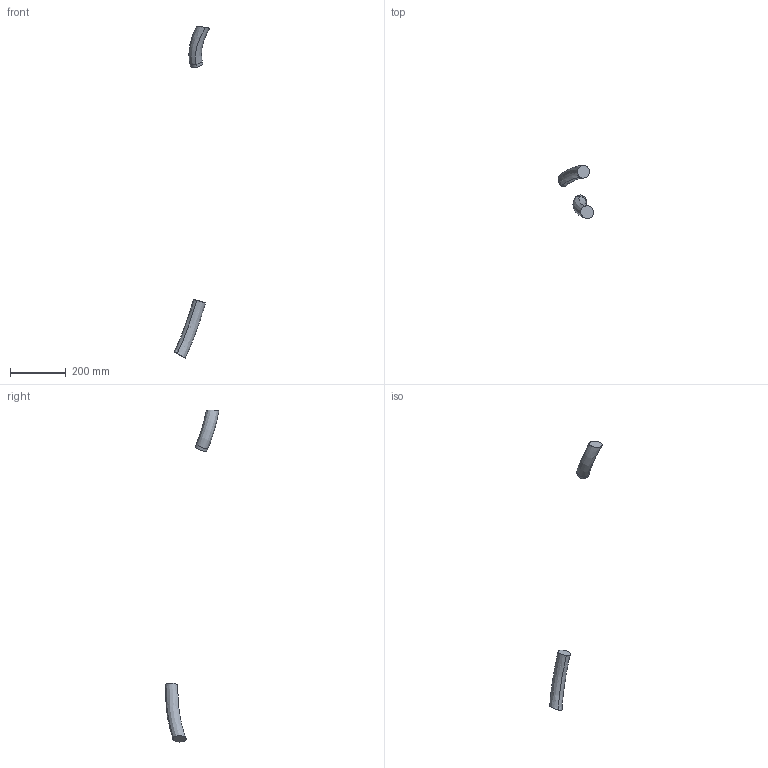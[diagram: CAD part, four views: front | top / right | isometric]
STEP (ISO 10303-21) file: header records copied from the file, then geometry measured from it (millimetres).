
FILE_DESCRIPTION (( 'STEP AP214' ), '1' );
FILE_NAME ('IRB6730-MH3_240kg-290_OC_00_LINK02m_CABLE.step', '2026-05-26T09:34:40', ( '' ), ( '' ), 'SwSTEP 2.0', 'SolidWorks 2024', '' );
FILE_SCHEMA (( 'AUTOMOTIVE_DESIGN' ));
Length unit declared in the file: millimetre
Products named in the file (1): IRB6730-MH3_240kg-290_OC_00_LINK02m_CABLE
Bounding box: 126.74 x 191.33 x 1187.2 mm (x, y, z)
Volume: 564178.4 mm3; surface area: 56708 mm2
Topology: 2 solids, 2 shells, 10 faces, 16 edges, 10 vertices
Faces by surface type: bspline 4, plane 4, cylinder 2
Entity records: 1782 total; most frequent: CARTESIAN_POINT 1589, ORIENTED_EDGE 32, DIRECTION 28, EDGE_CURVE 16, AXIS2_PLACEMENT_3D 13, ADVANCED_FACE 10, VERTEX_POINT 10, EDGE_LOOP 10
